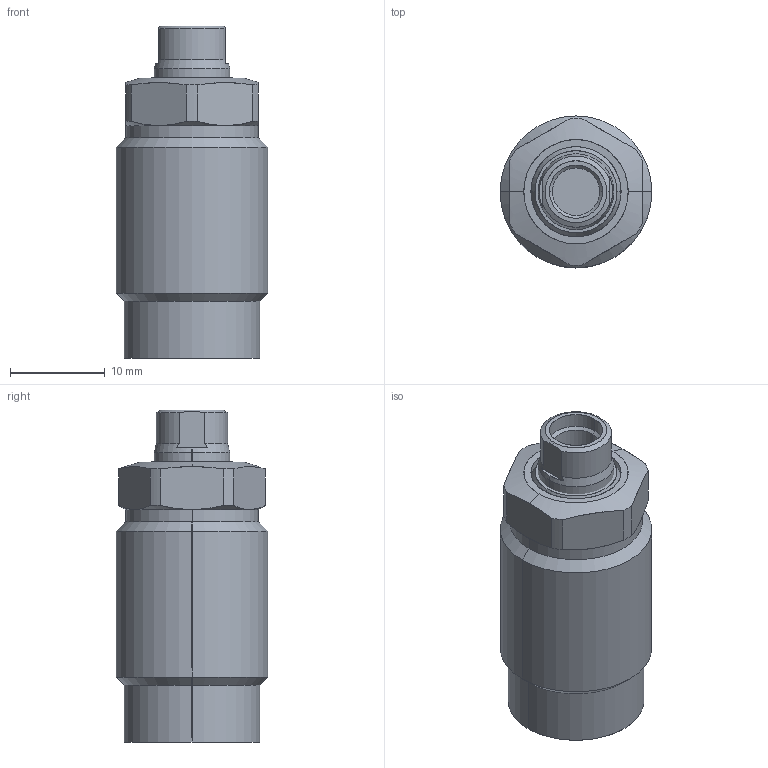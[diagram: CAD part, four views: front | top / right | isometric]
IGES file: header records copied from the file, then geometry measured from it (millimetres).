
Start section: SolidWorks IGES file using analytic representation for surfaces
Global section: file name: D:\abhilash\nijil\cylinder\Clasys1\dp converted\01\pt\01\0102-0101.IGS; native system: SolidWorks 2010; preprocessor: SolidWorks 2010; author: nidheesh; date: 130730.113628; units: millimetre
Bounding box: 16 x 16 x 35 mm (x, y, z)
Surface area: 2390 mm2 (no closed solid volume)
Topology: 0 solids, 0 shells, 74 faces, 844 edges, 844 vertices
Faces by surface type: revolution 50, bspline 24
